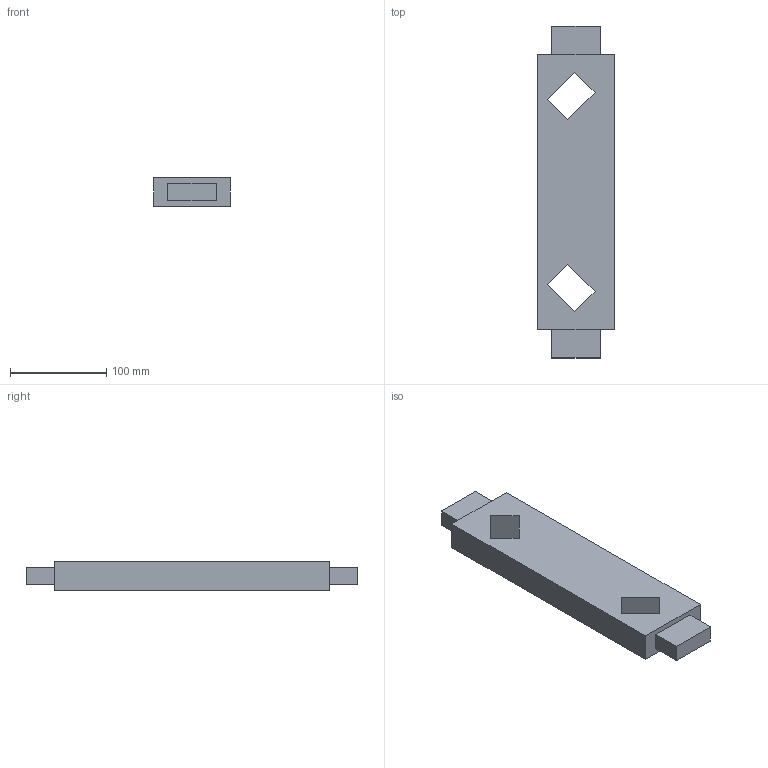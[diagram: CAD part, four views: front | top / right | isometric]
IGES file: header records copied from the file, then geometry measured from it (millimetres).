
Start section: SolidWorks IGES file using analytic representation for surfaces
Global section: file name: C:\Users\WZL\Desktop\標撿\seeed\20240518\狟嘐隅啣.IGS; native system: SolidWorks 2016; preprocessor: SolidWorks 2016; author: WZL; date: 240519.110524; units: millimetre
Bounding box: 80 x 345 x 30 mm (x, y, z)
Surface area: 79260 mm2 (no closed solid volume)
Topology: 0 solids, 0 shells, 24 faces, 120 edges, 120 vertices
Faces by surface type: bspline 24
